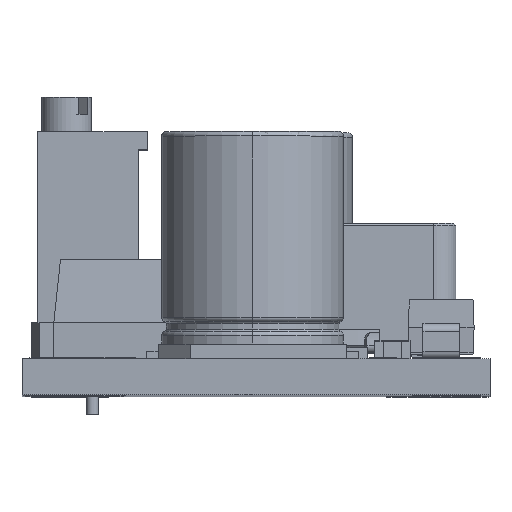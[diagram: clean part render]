
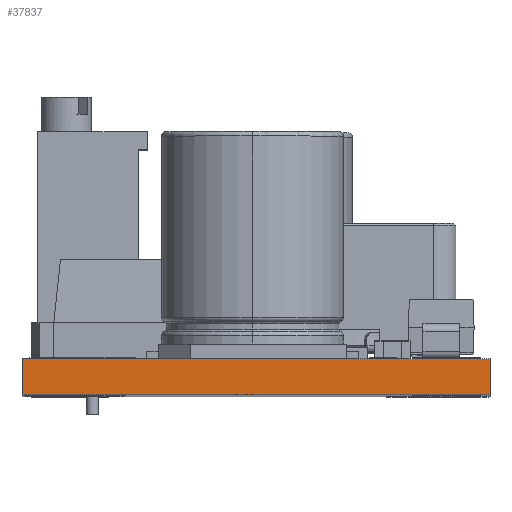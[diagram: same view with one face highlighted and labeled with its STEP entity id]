
A CAD part, top view. The second image highlights one B-rep face of the part: STEP entity #37837.
In plain terms, the highlighted planar face has unit normal (0, 0, 1).
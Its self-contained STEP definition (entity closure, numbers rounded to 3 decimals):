
#11781 = PLANE ( 'NONE',  #58378 ) ;
#11786 = CARTESIAN_POINT ( 'NONE',  ( 0., 1.6, 0. ) ) ;
#11789 = DIRECTION ( 'NONE',  ( 0., 0., -1. ) ) ;
#11891 = DIRECTION ( 'NONE',  ( -1., 0., 0. ) ) ;
#17229 = CARTESIAN_POINT ( 'NONE',  ( 20.6, 1.6, 0. ) ) ;
#17284 = CARTESIAN_POINT ( 'NONE',  ( 0., 1.6, 0. ) ) ;
#17297 = CARTESIAN_POINT ( 'NONE',  ( 0., 0., 0. ) ) ;
#17346 = CARTESIAN_POINT ( 'NONE',  ( 20.6, 0., 0. ) ) ;
#27249 = ORIENTED_EDGE ( 'NONE', *, *, #29128, .T. ) ;
#27250 = ORIENTED_EDGE ( 'NONE', *, *, #29250, .T. ) ;
#27280 = ORIENTED_EDGE ( 'NONE', *, *, #29111, .F. ) ;
#27285 = ORIENTED_EDGE ( 'NONE', *, *, #29010, .F. ) ;
#29010 = EDGE_CURVE ( 'NONE', #29694, #29650, #42796, .T. ) ;
#29111 = EDGE_CURVE ( 'NONE', #29650, #29747, #43010, .T. ) ;
#29128 = EDGE_CURVE ( 'NONE', #29749, #29747, #43011, .T. ) ;
#29250 = EDGE_CURVE ( 'NONE', #29694, #29749, #43177, .T. ) ;
#29650 = VERTEX_POINT ( 'NONE', #17229 ) ;
#29694 = VERTEX_POINT ( 'NONE', #17284 ) ;
#29747 = VERTEX_POINT ( 'NONE', #17346 ) ;
#29749 = VERTEX_POINT ( 'NONE', #17297 ) ;
#37483 = FACE_OUTER_BOUND ( 'NONE', #57889, .T. ) ;
#37837 = ADVANCED_FACE ( 'NONE', ( #37483 ), #11781, .F. ) ;
#42780 = VECTOR ( 'NONE', #47474, 1000. ) ;
#42796 = LINE ( 'NONE', #47430, #42780 ) ;
#42974 = VECTOR ( 'NONE', #47982, 1000. ) ;
#42988 = VECTOR ( 'NONE', #47910, 1000. ) ;
#43010 = LINE ( 'NONE', #47939, #42988 ) ;
#43011 = LINE ( 'NONE', #47962, #42974 ) ;
#43177 = LINE ( 'NONE', #57024, #43180 ) ;
#43180 = VECTOR ( 'NONE', #57012, 1000. ) ;
#47430 = CARTESIAN_POINT ( 'NONE',  ( 0., 1.6, 0. ) ) ;
#47474 = DIRECTION ( 'NONE',  ( 1., 0., 0. ) ) ;
#47910 = DIRECTION ( 'NONE',  ( 0., -1., 0. ) ) ;
#47939 = CARTESIAN_POINT ( 'NONE',  ( 20.6, 1.6, 0. ) ) ;
#47962 = CARTESIAN_POINT ( 'NONE',  ( 0., 0., 0. ) ) ;
#47982 = DIRECTION ( 'NONE',  ( 1., 0., 0. ) ) ;
#57012 = DIRECTION ( 'NONE',  ( 0., -1., 0. ) ) ;
#57024 = CARTESIAN_POINT ( 'NONE',  ( 0., 1.6, 0. ) ) ;
#57889 = EDGE_LOOP ( 'NONE', ( #27249, #27280, #27285, #27250 ) ) ;
#58378 = AXIS2_PLACEMENT_3D ( 'NONE', #11786, #11789, #11891 ) ;
